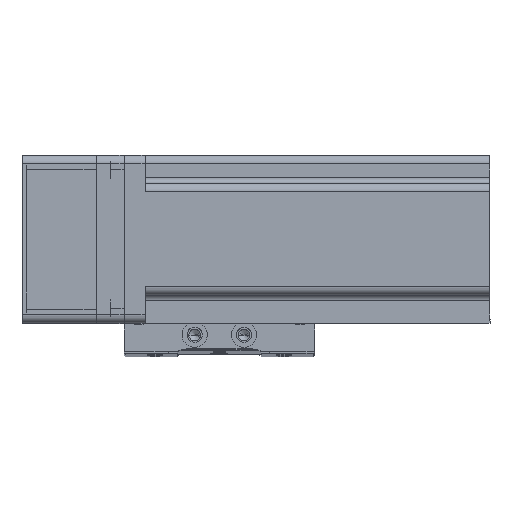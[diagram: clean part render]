
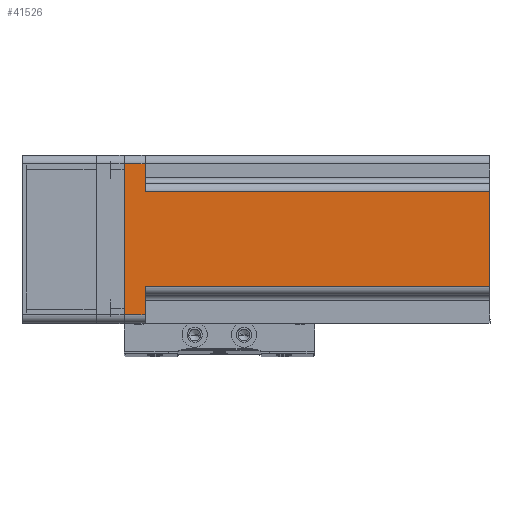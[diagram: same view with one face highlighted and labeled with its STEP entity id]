
A CAD part, top view. The second image highlights one B-rep face of the part: STEP entity #41526.
In plain terms, the highlighted planar face has unit normal (0, 0, 1) as drawn and (0, 1, 0) by its records, which use the part's own axes.
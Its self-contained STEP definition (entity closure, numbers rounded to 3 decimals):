
#1628 = ORIENTED_EDGE ( 'NONE', *, *, #4775, .T. ) ;
#1787 = CARTESIAN_POINT ( 'NONE',  ( 27., 30., 7.5 ) ) ;
#2819 = EDGE_CURVE ( 'NONE', #36704, #28452, #11618, .T. ) ;
#3359 = CARTESIAN_POINT ( 'NONE',  ( -17., 30., 130.7 ) ) ;
#4623 = VERTEX_POINT ( 'NONE', #43151 ) ;
#4775 = EDGE_CURVE ( 'NONE', #39373, #4623, #14846, .T. ) ;
#4828 = VERTEX_POINT ( 'NONE', #13828 ) ;
#5949 = DIRECTION ( 'NONE',  ( -1., 0., 0. ) ) ;
#6166 = ORIENTED_EDGE ( 'NONE', *, *, #23908, .T. ) ;
#7329 = CARTESIAN_POINT ( 'NONE',  ( 20., 30., 7.5 ) ) ;
#7495 = DIRECTION ( 'NONE',  ( -1., 0., 0. ) ) ;
#7792 = LINE ( 'NONE', #26904, #47304 ) ;
#9186 = LINE ( 'NONE', #13888, #48406 ) ;
#9643 = DIRECTION ( 'NONE',  ( 1., 0., 0. ) ) ;
#11195 = CARTESIAN_POINT ( 'NONE',  ( 27., 30., 130.7 ) ) ;
#11289 = CARTESIAN_POINT ( 'NONE',  ( 17., 30., 130.7 ) ) ;
#11618 = LINE ( 'NONE', #7329, #20563 ) ;
#12186 = ORIENTED_EDGE ( 'NONE', *, *, #37138, .T. ) ;
#12790 = DIRECTION ( 'NONE',  ( 0., 0., -1. ) ) ;
#12943 = ORIENTED_EDGE ( 'NONE', *, *, #13145, .T. ) ;
#13145 = EDGE_CURVE ( 'NONE', #36704, #29298, #40297, .T. ) ;
#13460 = CARTESIAN_POINT ( 'NONE',  ( 30., 30., 0. ) ) ;
#13828 = CARTESIAN_POINT ( 'NONE',  ( -27., 30., 0. ) ) ;
#13888 = CARTESIAN_POINT ( 'NONE',  ( 30., 30., 130.7 ) ) ;
#14172 = CARTESIAN_POINT ( 'NONE',  ( -17., 30., 130.7 ) ) ;
#14846 = LINE ( 'NONE', #36499, #35268 ) ;
#15003 = DIRECTION ( 'NONE',  ( 0., 0., -1. ) ) ;
#15022 = ORIENTED_EDGE ( 'NONE', *, *, #46489, .F. ) ;
#15212 = ORIENTED_EDGE ( 'NONE', *, *, #2819, .F. ) ;
#15488 = CARTESIAN_POINT ( 'NONE',  ( -27., 30., 7.5 ) ) ;
#17707 = DIRECTION ( 'NONE',  ( -1., 0., 0. ) ) ;
#17742 = FACE_OUTER_BOUND ( 'NONE', #44903, .T. ) ;
#18611 = LINE ( 'NONE', #14172, #46783 ) ;
#19006 = EDGE_CURVE ( 'NONE', #4623, #30892, #18611, .T. ) ;
#19854 = VECTOR ( 'NONE', #15003, 1000. ) ;
#20527 = CARTESIAN_POINT ( 'NONE',  ( 17., 30., 7.5 ) ) ;
#20563 = VECTOR ( 'NONE', #7495, 1000. ) ;
#22753 = DIRECTION ( 'NONE',  ( 0., -1., 0. ) ) ;
#23908 = EDGE_CURVE ( 'NONE', #29298, #4828, #31013, .T. ) ;
#24817 = CARTESIAN_POINT ( 'NONE',  ( 27., 30., 0. ) ) ;
#25567 = LINE ( 'NONE', #43425, #43585 ) ;
#25678 = DIRECTION ( 'NONE',  ( 0., 0., 1. ) ) ;
#26904 = CARTESIAN_POINT ( 'NONE',  ( -27., 30., 130.7 ) ) ;
#28264 = EDGE_CURVE ( 'NONE', #4828, #39373, #7792, .T. ) ;
#28452 = VERTEX_POINT ( 'NONE', #20527 ) ;
#29298 = VERTEX_POINT ( 'NONE', #24817 ) ;
#30736 = AXIS2_PLACEMENT_3D ( 'NONE', #45683, #22753, #49543 ) ;
#30766 = DIRECTION ( 'NONE',  ( 0., 0., 1. ) ) ;
#30892 = VERTEX_POINT ( 'NONE', #3359 ) ;
#31013 = LINE ( 'NONE', #13460, #40047 ) ;
#31492 = ORIENTED_EDGE ( 'NONE', *, *, #28264, .T. ) ;
#33830 = PLANE ( 'NONE',  #30736 ) ;
#35268 = VECTOR ( 'NONE', #9643, 1000. ) ;
#36359 = ORIENTED_EDGE ( 'NONE', *, *, #19006, .T. ) ;
#36499 = CARTESIAN_POINT ( 'NONE',  ( -20., 30., 7.5 ) ) ;
#36704 = VERTEX_POINT ( 'NONE', #1787 ) ;
#37138 = EDGE_CURVE ( 'NONE', #39912, #28452, #25567, .T. ) ;
#39373 = VERTEX_POINT ( 'NONE', #15488 ) ;
#39912 = VERTEX_POINT ( 'NONE', #11289 ) ;
#40047 = VECTOR ( 'NONE', #5949, 1000. ) ;
#40297 = LINE ( 'NONE', #11195, #19854 ) ;
#41526 = ADVANCED_FACE ( 'NONE', ( #17742 ), #33830, .F. ) ;
#43151 = CARTESIAN_POINT ( 'NONE',  ( -17., 30., 7.5 ) ) ;
#43425 = CARTESIAN_POINT ( 'NONE',  ( 17., 30., 130.7 ) ) ;
#43585 = VECTOR ( 'NONE', #12790, 1000. ) ;
#44903 = EDGE_LOOP ( 'NONE', ( #1628, #36359, #15022, #12186, #15212, #12943, #6166, #31492 ) ) ;
#45683 = CARTESIAN_POINT ( 'NONE',  ( 30., 30., 130.7 ) ) ;
#46489 = EDGE_CURVE ( 'NONE', #39912, #30892, #9186, .T. ) ;
#46783 = VECTOR ( 'NONE', #25678, 1000. ) ;
#47304 = VECTOR ( 'NONE', #30766, 1000. ) ;
#48406 = VECTOR ( 'NONE', #17707, 1000. ) ;
#49543 = DIRECTION ( 'NONE',  ( 1., 0., 0. ) ) ;
